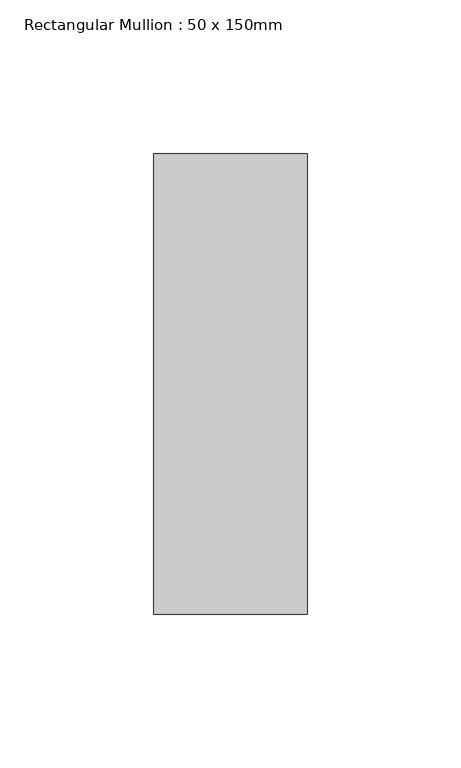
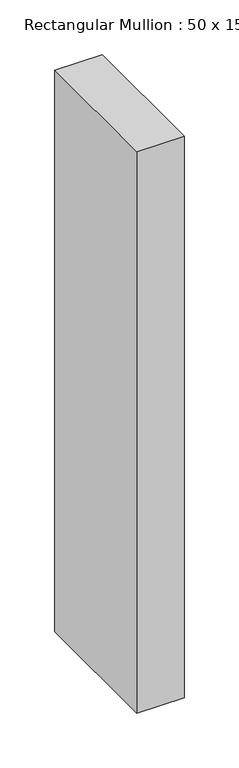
"""IFC4 building model written with IfcOpenShell, lengths in millimetres: member geometry, Rectangular Mullion : 50 x 150mm."""

import ifcopenshell
import ifcopenshell.guid

model = None  # the IFC model being written
_history = None  # IfcOwnerHistory: only IFC2X3 demands one
_inside = {}  # id of a spatial element -> (the spatial element, [elements in it])
_under = {}  # id of a project, library or spatial element -> (it, [spatial elements below it])
_declared = {}  # id of a project -> (the project, [libraries it declares])
_typed = {}  # id of a type object -> (the type object, [elements of that type])
_made_of = {}  # id of a material, layer set ... -> (it, [elements and type objects made of it])


def new_model(schema):
    """Start an empty IFC model of exactly this schema.

    Asked for "IFC4X3", IfcOpenShell would pick the latest addendum, in which some entities
    have other attributes; the version numbers below select the first issue.
    IFC2X3 requires an IfcOwnerHistory on every rooted entity: one is made here for all.
    """
    global model, _history
    if schema == "IFC4X3":
        model = ifcopenshell.file(schema_version=(4, 3, 0, 0))
    else:
        model = ifcopenshell.file(schema=schema)
    _inside.clear()
    _under.clear()
    _declared.clear()
    _typed.clear()
    _made_of.clear()
    _history = None
    if model.schema == "IFC2X3":
        org = make("IfcOrganization", Name="unknown")
        user = make(
            "IfcPersonAndOrganization",
            ThePerson=make("IfcPerson", FamilyName="unknown"),
            TheOrganization=org,
        )
        app = make(
            "IfcApplication",
            ApplicationDeveloper=org,
            Version="unknown",
            ApplicationFullName="unknown",
            ApplicationIdentifier="unknown",
        )
        _history = make(
            "IfcOwnerHistory",
            OwningUser=user,
            OwningApplication=app,
            ChangeAction="ADDED",
            CreationDate=0,
        )
    return model


def make(cls, **values):
    """One entity of the class cls with the attributes given. An attribute that is None is left unset."""
    return model.create_entity(
        cls, **{name: value for name, value in values.items() if value is not None}
    )


def rooted(cls, **values):
    """An entity with a GlobalId (a new one), such as an element, a storey or a relation."""
    return make(cls, GlobalId=ifcopenshell.guid.new(), OwnerHistory=_history, **values)


def si_unit(unit_type, name, prefix=None):
    """IfcSIUnit, for example si_unit("LENGTHUNIT", "METRE", prefix="MILLI")."""
    return make("IfcSIUnit", UnitType=unit_type, Prefix=prefix, Name=name)


def assignment(units):
    """IfcUnitAssignment: the units of a project."""
    return None if units is None else make("IfcUnitAssignment", Units=units)


def point(xyz):
    """IfcCartesianPoint."""
    return None if xyz is None else make("IfcCartesianPoint", Coordinates=xyz)


def direction(xyz):
    """IfcDirection."""
    return None if xyz is None else make("IfcDirection", DirectionRatios=xyz)


def frame(location, z_axis=None, x_axis=None):
    """IfcAxis2Placement3D, a coordinate frame: its origin and axes. An axis left out is left unset."""
    return make(
        "IfcAxis2Placement3D",
        Location=point(location),
        Axis=direction(z_axis),
        RefDirection=direction(x_axis),
    )


def origin():
    """The frame at (0, 0, 0) with its axes left unset."""
    return frame((0.0, 0.0, 0.0))


def place(relative_to, where):
    """IfcLocalPlacement: puts the frame where relative to a parent placement (None: the world)."""
    return make(
        "IfcLocalPlacement", PlacementRelTo=relative_to, RelativePlacement=where
    )


def context(
    kind, dimensions, precision=None, world=None, true_north=None, identifier=None
):
    """IfcGeometricRepresentationContext, for example the 3D "Model" context."""
    return make(
        "IfcGeometricRepresentationContext",
        ContextIdentifier=identifier,
        ContextType=kind,
        CoordinateSpaceDimension=dimensions,
        Precision=precision,
        WorldCoordinateSystem=world,
        TrueNorth=true_north,
    )


def project(units=None, contexts=None):
    """IfcProject with its units and contexts."""
    return rooted(
        "IfcProject",
        Name="project",
        RepresentationContexts=contexts,
        UnitsInContext=assignment(units),
    )


def spatial(cls, under=None, at=None, **own):
    """A site, building, storey or space (cls), placed at a placement, below another one or the project."""
    s = rooted(cls, ObjectPlacement=at, **own)
    if under is not None:
        _under.setdefault(under.id(), (under, []))[1].append(s)
    return s


def polyline(points):
    """IfcPolyline through the points."""
    return make("IfcPolyline", Points=[point(p) for p in points])


def outline(outer, holes=None, kind="AREA"):
    """IfcArbitraryClosedProfileDef: a profile drawn as a closed curve; with holes, ...WithVoids."""
    if holes is None:
        return make("IfcArbitraryClosedProfileDef", ProfileType=kind, OuterCurve=outer)
    return make(
        "IfcArbitraryProfileDefWithVoids",
        ProfileType=kind,
        OuterCurve=outer,
        InnerCurves=holes,
    )


def extrude(swept, where, along, depth):
    """IfcExtrudedAreaSolid: the profile swept, set in the frame where, extruded along a direction by depth."""
    return make(
        "IfcExtrudedAreaSolid",
        SweptArea=swept,
        Position=where,
        ExtrudedDirection=direction(along),
        Depth=depth,
    )


def shape(context_of_items, identifier, shape_type, items):
    """IfcShapeRepresentation: the items that make up one representation, for example the "Body"."""
    return make(
        "IfcShapeRepresentation",
        ContextOfItems=context_of_items,
        RepresentationIdentifier=identifier,
        RepresentationType=shape_type,
        Items=items,
    )


def source(mapping_origin, context_of_items, identifier, shape_type, items):
    """IfcRepresentationMap: a shape defined once, which mapped items show again and again."""
    return make(
        "IfcRepresentationMap",
        MappingOrigin=mapping_origin,
        MappedRepresentation=shape(context_of_items, identifier, shape_type, items),
    )


def transform(
    local_origin,
    x_axis=None,
    y_axis=None,
    z_axis=None,
    scale=None,
    scale2=None,
    scale3=None,
    uniform=True,
):
    """IfcCartesianTransformationOperator3D, or its non-uniform kind. x_axis, y_axis, z_axis: its Axis1, 2, 3."""
    if uniform:
        return make(
            "IfcCartesianTransformationOperator3D",
            Axis1=direction(x_axis),
            Axis2=direction(y_axis),
            LocalOrigin=point(local_origin),
            Scale=scale,
            Axis3=direction(z_axis),
        )
    return make(
        "IfcCartesianTransformationOperator3DnonUniform",
        Axis1=direction(x_axis),
        Axis2=direction(y_axis),
        LocalOrigin=point(local_origin),
        Scale=scale,
        Axis3=direction(z_axis),
        Scale2=scale2,
        Scale3=scale3,
    )


def mapped(mapping_source, mapping_target):
    """IfcMappedItem: shows the shape of a source again, moved by a transform."""
    return make(
        "IfcMappedItem", MappingSource=mapping_source, MappingTarget=mapping_target
    )


def made_of(thing, what):
    """Note that an element or type object is made of a material, layer set ...; save() writes the relation."""
    if what is not None:
        _made_of.setdefault(what.id(), (what, []))[1].append(thing)
    return thing


def element(
    cls,
    number,
    at=None,
    inside=None,
    cuts=None,
    type_object=None,
    material=None,
    context=None,
    identifier="Body",
    shape_type=None,
    held_by="IfcProductDefinitionShape",
    body=None,
    shapes=None,
    **own,
):
    """One element of the class cls, such as IfcWall. Its Tag is "e" and its number.

    at: its placement. inside: the storey or other place that contains it. cuts: it is an
    opening in that element (IfcRelVoidsElement). A single representation is given by context,
    identifier, shape_type and body (its items); several are given by shapes. held_by: the class
    of the entity that holds the representations. save() writes the other relations.
    """
    e = rooted(cls, Tag="e%d" % number, ObjectPlacement=at, **own)
    if body is not None:
        shapes = [shape(context, identifier, shape_type, body)]
    if shapes is not None:
        e.Representation = make(held_by, Representations=shapes)
    if inside is not None:
        _inside.setdefault(inside.id(), (inside, []))[1].append(e)
    if cuts is not None:
        rooted(
            "IfcRelVoidsElement", RelatingBuildingElement=cuts, RelatedOpeningElement=e
        )
    if type_object is not None:
        _typed.setdefault(type_object.id(), (type_object, []))[1].append(e)
    return made_of(e, material)


def aggregate(whole, parts):
    """IfcRelAggregates: a whole, such as a stair, and the parts it consists of."""
    return rooted("IfcRelAggregates", RelatingObject=whole, RelatedObjects=parts)


def save(model, path):
    """Write the relations noted so far, then the file.

    IfcRelAggregates (storeys below a building ...), IfcRelContainedInSpatialStructure (elements
    in a storey), IfcRelDefinesByType, IfcRelAssociatesMaterial and IfcRelDeclares: one each for
    every whole, place, type object, material and project.
    """
    for whole, parts in _under.values():
        aggregate(whole, parts)
    for where, things in _inside.values():
        rooted(
            "IfcRelContainedInSpatialStructure",
            RelatedElements=things,
            RelatingStructure=where,
        )
    for kind, things in _typed.values():
        rooted("IfcRelDefinesByType", RelatedObjects=things, RelatingType=kind)
    for what, things in _made_of.values():
        rooted("IfcRelAssociatesMaterial", RelatedObjects=things, RelatingMaterial=what)
    for by, libraries in _declared.values():
        rooted("IfcRelDeclares", RelatingContext=by, RelatedDefinitions=libraries)
    model.write(path)


def rectangular_mullion_50_x_150mm_33fa7e5f(model_context):
    return source(origin(), model_context, "Body", "SweptSolid", [
        extrude(outline(polyline([(25.0, 75.0), (25.0, -75.0), (-25.0, -75.0), (-25.0, 75.0), (25.0, 75.0)])), frame((0.0, 0.0, -626.5622708), z_axis=(0.0, 0.0, 1.0), x_axis=(1.0, 0.0, 0.0)), (0.0, 0.0, 1.0), 626.5622708),
    ])


if __name__ == "__main__":
    model = new_model("IFC4")
    model_context = context("Model", 3, world=origin())
    ifc_project = project(units=[si_unit("LENGTHUNIT", "METRE", prefix="MILLI")], contexts=[model_context])
    site = spatial("IfcSite", under=ifc_project)
    building = spatial("IfcBuilding", under=site)
    placement = place(None, origin())
    rectangular_mullion_50_x_150mm_shape = rectangular_mullion_50_x_150mm_33fa7e5f(model_context)
    element("IfcMember", 1, ObjectType="Rectangular Mullion : 50 x 150mm", at=placement, inside=building, context=model_context, shape_type="MappedRepresentation", body=[
        mapped(rectangular_mullion_50_x_150mm_shape, transform((0.0, 0.0, 0.0), x_axis=(1.0, 0.0, 0.0), y_axis=(0.0, 1.0, 0.0), z_axis=(0.0, 0.0, 1.0))),
    ])
    save(model, "model.ifc")
